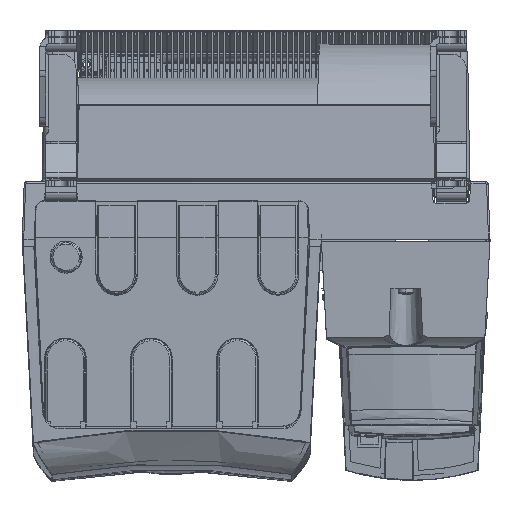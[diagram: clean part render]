
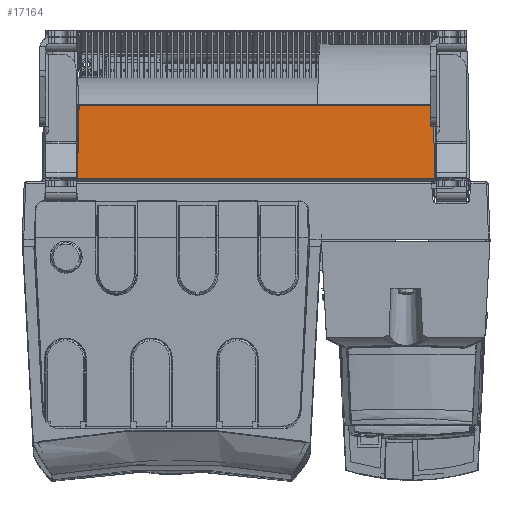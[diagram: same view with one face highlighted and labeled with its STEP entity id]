
A CAD part, top view. The second image highlights one B-rep face of the part: STEP entity #17164.
In plain terms, the highlighted planar face has unit normal (0, 0.035, 0.999).
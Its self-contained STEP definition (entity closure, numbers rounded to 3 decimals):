
#4801=DIRECTION('',(1.,0.,0.));
#4802=VECTOR('',#4801,234.615);
#4803=CARTESIAN_POINT('',(37.692,-49.153,810.652));
#4804=LINE('',#4803,#4802);
#4805=CARTESIAN_POINT('',(272.308,-49.153,810.652));
#4806=CARTESIAN_POINT('',(272.321,-52.327,810.763));
#4807=CARTESIAN_POINT('',(272.356,-58.415,810.975));
#4808=CARTESIAN_POINT('',(272.433,-66.741,811.266));
#4809=CARTESIAN_POINT('',(272.536,-74.32,811.531));
#4810=CARTESIAN_POINT('',(272.668,-81.185,811.771));
#4811=CARTESIAN_POINT('',(272.834,-87.381,811.987));
#4812=CARTESIAN_POINT('',(273.062,-92.963,812.182));
#4813=CARTESIAN_POINT('',(273.26,-96.346,812.3));
#4814=CARTESIAN_POINT('',(273.446,-97.94,812.356));
#4816=DIRECTION('',(-1.,0.,0.));
#4817=VECTOR('',#4816,236.892);
#4818=CARTESIAN_POINT('',(273.446,-97.94,812.356));
#4819=LINE('',#4818,#4817);
#4820=CARTESIAN_POINT('',(36.554,-97.94,812.356));
#4821=CARTESIAN_POINT('',(36.743,-96.327,812.299));
#4822=CARTESIAN_POINT('',(36.941,-92.908,812.18));
#4823=CARTESIAN_POINT('',(37.17,-87.257,811.983));
#4824=CARTESIAN_POINT('',(37.335,-81.052,811.766));
#4825=CARTESIAN_POINT('',(37.464,-74.321,811.531));
#4826=CARTESIAN_POINT('',(37.565,-66.921,811.272));
#4827=CARTESIAN_POINT('',(37.642,-58.687,810.985));
#4828=CARTESIAN_POINT('',(37.679,-52.445,810.767));
#4829=CARTESIAN_POINT('',(37.692,-49.153,810.652));
#14192=CARTESIAN_POINT('',(273.446,-97.94,
812.356));
#14193=CARTESIAN_POINT('',(36.554,-97.94,
812.356));
#14194=VERTEX_POINT('',#14192);
#14195=VERTEX_POINT('',#14193);
#14199=CARTESIAN_POINT('',(272.308,-49.153,
810.652));
#14200=CARTESIAN_POINT('',(37.692,-49.153,
810.652));
#14201=VERTEX_POINT('',#14199);
#14202=VERTEX_POINT('',#14200);
#17149=CARTESIAN_POINT('',(0.,-48.67,810.635));
#17150=DIRECTION('',(0.,0.035,0.999));
#17151=DIRECTION('',(0.,-0.999,0.035));
#17152=AXIS2_PLACEMENT_3D('',#17149,#17150,#17151);
#17153=PLANE('',#17152);
#17155=ORIENTED_EDGE('',*,*,#17154,.T.);
#17157=ORIENTED_EDGE('',*,*,#17156,.T.);
#17159=ORIENTED_EDGE('',*,*,#17158,.T.);
#17161=ORIENTED_EDGE('',*,*,#17160,.T.);
#17162=EDGE_LOOP('',(#17155,#17157,#17159,#17161));
#17163=FACE_OUTER_BOUND('',#17162,.F.);
#17164=ADVANCED_FACE('',(#17163),#17153,.T.);
#4815=B_SPLINE_CURVE_WITH_KNOTS('',3,(#4805,#4806,#4807,#4808,#4809,#4810,#4811,
#4812,#4813,#4814),.UNSPECIFIED.,.F.,.F.,(4,1,1,1,1,1,1,4),(0.,
0.143,0.286,0.429,0.571,
0.714,0.857,1.),.UNSPECIFIED.);
#4830=B_SPLINE_CURVE_WITH_KNOTS('',3,(#4820,#4821,#4822,#4823,#4824,#4825,#4826,
#4827,#4828,#4829),.UNSPECIFIED.,.F.,.F.,(4,1,1,1,1,1,1,4),(0.,
0.143,0.286,0.429,0.571,
0.714,0.857,1.),.UNSPECIFIED.);
#17154=EDGE_CURVE('',#14202,#14201,#4804,.T.);
#17156=EDGE_CURVE('',#14201,#14194,#4815,.T.);
#17158=EDGE_CURVE('',#14194,#14195,#4819,.T.);
#17160=EDGE_CURVE('',#14195,#14202,#4830,.T.);
